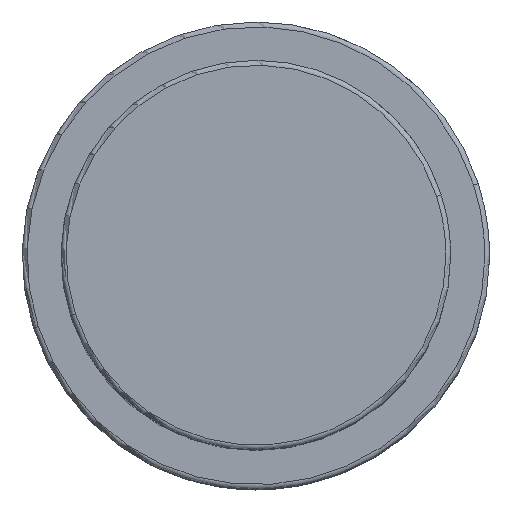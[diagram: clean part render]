
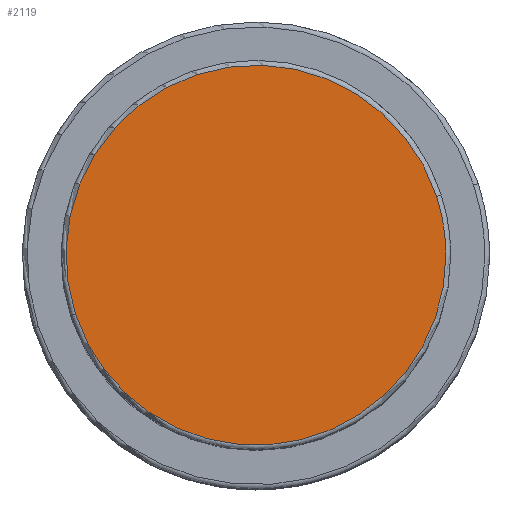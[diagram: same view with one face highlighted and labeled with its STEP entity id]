
A CAD part, top view. The second image highlights one B-rep face of the part: STEP entity #2119.
In plain terms, the highlighted planar face has unit normal (0, 0, 1).
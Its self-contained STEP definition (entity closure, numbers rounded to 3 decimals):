
#2052=CARTESIAN_POINT('',(18.546,6.026,48.5));
#2053=VERTEX_POINT('',#2052);
#2071=CARTESIAN_POINT('',(-18.546,-6.026,48.5));
#2072=VERTEX_POINT('',#2071);
#2080=CARTESIAN_POINT('',(0.0,0.0,48.5));
#2081=DIRECTION('',(0.0,0.0,1.0));
#2082=DIRECTION('',(1.0,0.0,0.0));
#2083=AXIS2_PLACEMENT_3D('',#2080,#2081,#2082);
#2084=CIRCLE('',#2083,19.5);
#2085=EDGE_CURVE('no 1993',#2053,#2072,#2084,.T.);
#2095=CARTESIAN_POINT('',(19.5,0.0,48.5));
#2096=VERTEX_POINT('',#2095);
#2097=CARTESIAN_POINT('',(0.0,0.0,48.5));
#2098=DIRECTION('',(0.0,0.0,1.0));
#2099=DIRECTION('',(1.0,0.0,0.0));
#2100=AXIS2_PLACEMENT_3D('',#2097,#2098,#2099);
#2101=CIRCLE('',#2100,19.5);
#2102=EDGE_CURVE('no 2002',#2096,#2053,#2101,.T.);
#2103=ORIENTED_EDGE('',*,*,#2102,.T.);
#2104=ORIENTED_EDGE('',*,*,#2085,.T.);
#2105=CARTESIAN_POINT('',(0.0,0.0,48.5));
#2106=DIRECTION('',(0.0,0.0,1.0));
#2107=DIRECTION('',(1.0,0.0,0.0));
#2108=AXIS2_PLACEMENT_3D('',#2105,#2106,#2107);
#2109=CIRCLE('',#2108,19.5);
#2110=EDGE_CURVE('no 2008',#2072,#2096,#2109,.T.);
#2111=ORIENTED_EDGE('',*,*,#2110,.T.);
#2112=EDGE_LOOP('',(#2103,#2104,#2111));
#2113=FACE_OUTER_BOUND('',#2112,.T.);
#2114=CARTESIAN_POINT('',(0.0,0.0,48.5));
#2115=DIRECTION('',(0.0,0.0,1.0));
#2116=DIRECTION('',(1.0,0.0,0.0));
#2117=AXIS2_PLACEMENT_3D('',#2114,#2115,#2116);
#2118=PLANE('',#2117);
#2119=ADVANCED_FACE('no 1995',(#2113),#2118,.T.);
